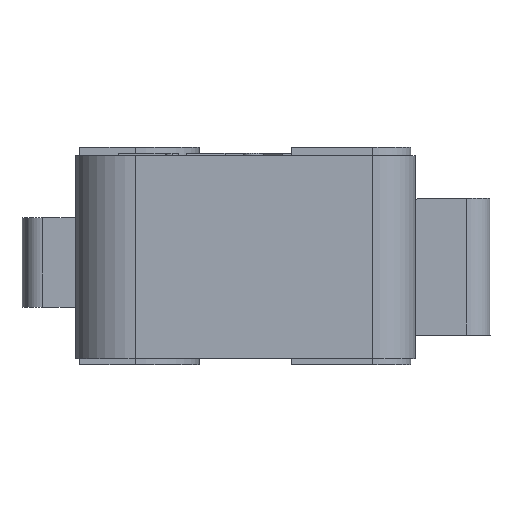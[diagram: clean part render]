
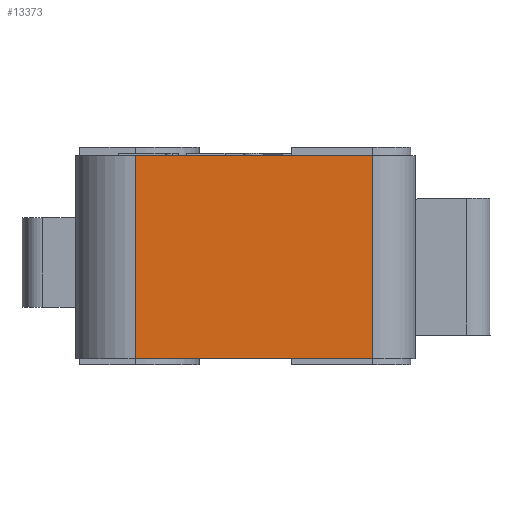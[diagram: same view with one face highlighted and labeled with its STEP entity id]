
A CAD part, left-side view. The second image highlights one B-rep face of the part: STEP entity #13373.
In plain terms, the highlighted planar face has unit normal (-1, 0, 0).
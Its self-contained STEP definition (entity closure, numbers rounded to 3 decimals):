
#2418=DIRECTION('',(0.,-1.,0.));
#2419=VECTOR('',#2418,11.1);
#2420=CARTESIAN_POINT('',(-27.322,8.192,
-4.7));
#2421=LINE('',#2420,#2419);
#2560=DIRECTION('',(0.,0.,-1.));
#2561=VECTOR('',#2560,9.5);
#2562=CARTESIAN_POINT('',(-27.322,8.192,4.8));
#2563=LINE('',#2562,#2561);
#2564=DIRECTION('',(0.,-1.,0.));
#2565=VECTOR('',#2564,11.1);
#2566=CARTESIAN_POINT('',(-27.322,8.192,4.8));
#2567=LINE('',#2566,#2565);
#2568=DIRECTION('',(0.,0.,1.));
#2569=VECTOR('',#2568,9.5);
#2570=CARTESIAN_POINT('',(-27.322,-2.908,
-4.7));
#2571=LINE('',#2570,#2569);
#9532=CARTESIAN_POINT('',(-27.322,-2.908,
4.8));
#9533=VERTEX_POINT('',#9532);
#9534=CARTESIAN_POINT('',(-27.322,8.192,4.8));
#9535=VERTEX_POINT('',#9534);
#10366=CARTESIAN_POINT('',(-27.322,8.192,
-4.7));
#10367=VERTEX_POINT('',#10366);
#10368=CARTESIAN_POINT('',(-27.322,-2.908,
-4.7));
#10369=VERTEX_POINT('',#10368);
#13361=CARTESIAN_POINT('',(-27.322,10.992,
-4.7));
#13362=DIRECTION('',(-1.,0.,0.));
#13363=DIRECTION('',(0.,-1.,0.));
#13364=AXIS2_PLACEMENT_3D('',#13361,#13362,#13363);
#13365=PLANE('',#13364);
#13366=ORIENTED_EDGE('',*,*,#13355,.F.);
#13367=ORIENTED_EDGE('',*,*,#12015,.T.);
#13369=ORIENTED_EDGE('',*,*,#13368,.F.);
#13370=ORIENTED_EDGE('',*,*,#13216,.F.);
#13371=EDGE_LOOP('',(#13366,#13367,#13369,#13370));
#13372=FACE_OUTER_BOUND('',#13371,.F.);
#13373=ADVANCED_FACE('',(#13372),#13365,.T.);
#12015=EDGE_CURVE('',#9535,#9533,#2567,.T.);
#13216=EDGE_CURVE('',#10367,#10369,#2421,.T.);
#13355=EDGE_CURVE('',#9535,#10367,#2563,.T.);
#13368=EDGE_CURVE('',#10369,#9533,#2571,.T.);
